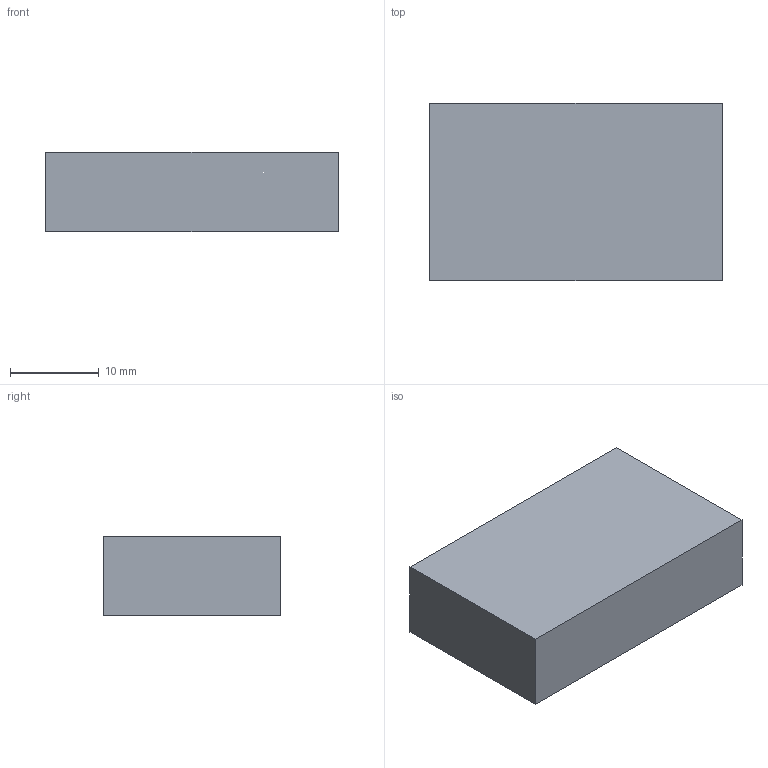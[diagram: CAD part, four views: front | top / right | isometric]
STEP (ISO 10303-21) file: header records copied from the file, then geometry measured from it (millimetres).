
FILE_DESCRIPTION(('Open CASCADE Model'),'2;1');
FILE_NAME('Open CASCADE Shape Model','2026-10-25T05:18:01',('Author'),( 'Open CASCADE'),'Open CASCADE STEP processor 7.9','Open CASCADE 7.9' ,'Unknown');
FILE_SCHEMA(('AUTOMOTIVE_DESIGN { 1 0 10303 214 1 1 1 1 }'));
Length unit declared in the file: millimetre
Products named in the file (1): Open CASCADE STEP translator 7.9 10
Bounding box: 33 x 20 x 9 mm (x, y, z)
Volume: 5940 mm3; surface area: 2274 mm2
Topology: 1 solids, 1 shells, 6 faces, 12 edges, 8 vertices
Faces by surface type: plane 6
Entity records: 322 total; most frequent: CARTESIAN_POINT 51, DIRECTION 50, LINE 36, VECTOR 36, ORIENTED_EDGE 24, PCURVE 24, DEFINITIONAL_REPRESENTATION 24, EDGE_CURVE 12
